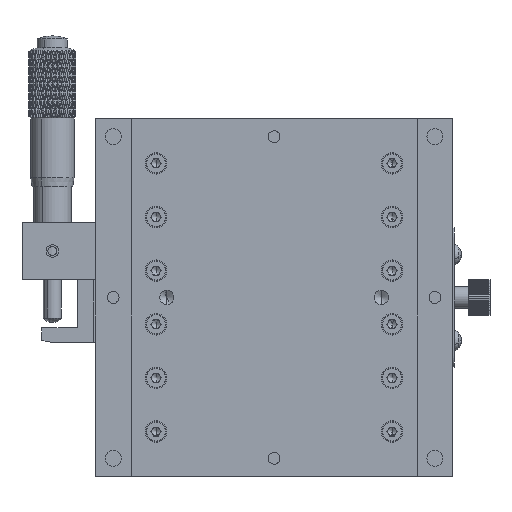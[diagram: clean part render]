
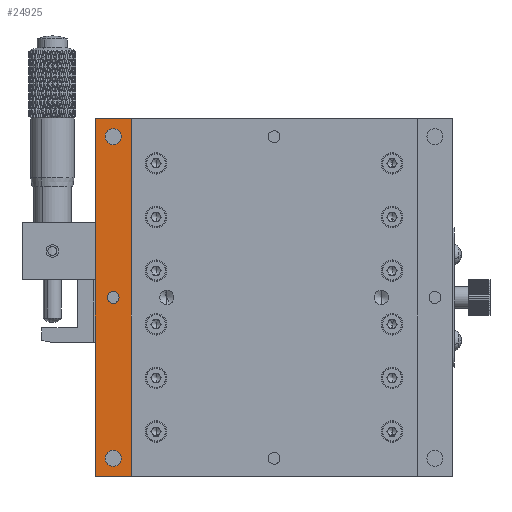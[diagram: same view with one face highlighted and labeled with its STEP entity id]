
A CAD part, front view. The second image highlights one B-rep face of the part: STEP entity #24925.
In plain terms, the highlighted planar face has unit normal (0, -1, 0).
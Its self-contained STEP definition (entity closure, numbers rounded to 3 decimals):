
#30 = ORIENTED_EDGE ( 'NONE', *, *, #30024, .T. ) ;
#113 = AXIS2_PLACEMENT_3D ( 'NONE', #5647, #52542, #12407 ) ;
#714 = CARTESIAN_POINT ( 'NONE',  ( -50., 0., -50. ) ) ;
#1041 = EDGE_CURVE ( 'NONE', #62448, #77093, #59112, .T. ) ;
#2979 = ORIENTED_EDGE ( 'NONE', *, *, #67895, .T. ) ;
#3623 = FACE_BOUND ( 'NONE', #60285, .T. ) ;
#5367 = DIRECTION ( 'NONE',  ( 0., 0., 1. ) ) ;
#5647 = CARTESIAN_POINT ( 'NONE',  ( -45., 0., 0. ) ) ;
#6212 = CARTESIAN_POINT ( 'NONE',  ( -50., 0., 50. ) ) ;
#6318 = CARTESIAN_POINT ( 'NONE',  ( -45., 0., 45. ) ) ;
#7304 = DIRECTION ( 'NONE',  ( 0., 0., -1. ) ) ;
#7659 = VECTOR ( 'NONE', #40842, 1000. ) ;
#8736 = AXIS2_PLACEMENT_3D ( 'NONE', #79269, #39116, #85956 ) ;
#10585 = CARTESIAN_POINT ( 'NONE',  ( -40., 0., 50. ) ) ;
#11142 = EDGE_LOOP ( 'NONE', ( #85021, #28836 ) ) ;
#12348 = EDGE_LOOP ( 'NONE', ( #45420, #20466 ) ) ;
#12407 = DIRECTION ( 'NONE',  ( 0., 0., 1. ) ) ;
#13078 = DIRECTION ( 'NONE',  ( 0., 0., 1. ) ) ;
#17884 = CARTESIAN_POINT ( 'NONE',  ( -50., 0., 50. ) ) ;
#18077 = DIRECTION ( 'NONE',  ( 0., 1., 0. ) ) ;
#18647 = CARTESIAN_POINT ( 'NONE',  ( -40., 0., -50. ) ) ;
#19258 = DIRECTION ( 'NONE',  ( 0., 1., 0. ) ) ;
#19388 = CIRCLE ( 'NONE', #31414, 2.25 ) ;
#19712 = DIRECTION ( 'NONE',  ( 0., 0., -1. ) ) ;
#20466 = ORIENTED_EDGE ( 'NONE', *, *, #1041, .T. ) ;
#20703 = CARTESIAN_POINT ( 'NONE',  ( -50., 0., 50. ) ) ;
#22109 = VERTEX_POINT ( 'NONE', #53665 ) ;
#24925 = ADVANCED_FACE ( 'NONE', ( #3623, #40216, #72852, #39308 ), #67509, .F. ) ;
#25148 = LINE ( 'NONE', #6212, #76462 ) ;
#25444 = LINE ( 'NONE', #714, #7659 ) ;
#25760 = ORIENTED_EDGE ( 'NONE', *, *, #75611, .T. ) ;
#26981 = VERTEX_POINT ( 'NONE', #28097 ) ;
#27223 = CARTESIAN_POINT ( 'NONE',  ( -40., 0., 50. ) ) ;
#27419 = DIRECTION ( 'NONE',  ( 0., 1., 0. ) ) ;
#28097 = CARTESIAN_POINT ( 'NONE',  ( -45., 0., -42.75 ) ) ;
#28836 = ORIENTED_EDGE ( 'NONE', *, *, #58737, .T. ) ;
#30024 = EDGE_CURVE ( 'NONE', #75102, #67876, #25148, .T. ) ;
#30215 = CIRCLE ( 'NONE', #8736, 1.65 ) ;
#31414 = AXIS2_PLACEMENT_3D ( 'NONE', #85626, #45529, #5367 ) ;
#34284 = VECTOR ( 'NONE', #83064, 1000. ) ;
#34504 = CARTESIAN_POINT ( 'NONE',  ( -45., 0., -47.25 ) ) ;
#35526 = CIRCLE ( 'NONE', #113, 1.65 ) ;
#36205 = CARTESIAN_POINT ( 'NONE',  ( -50., 0., 50. ) ) ;
#39116 = DIRECTION ( 'NONE',  ( 0., 1., 0. ) ) ;
#39308 = FACE_OUTER_BOUND ( 'NONE', #50264, .T. ) ;
#40216 = FACE_BOUND ( 'NONE', #11142, .T. ) ;
#40842 = DIRECTION ( 'NONE',  ( 1., 0., 0. ) ) ;
#41053 = VECTOR ( 'NONE', #7304, 1000. ) ;
#42613 = EDGE_CURVE ( 'NONE', #26981, #72032, #54593, .T. ) ;
#42693 = AXIS2_PLACEMENT_3D ( 'NONE', #20703, #27419, #74275 ) ;
#45120 = AXIS2_PLACEMENT_3D ( 'NONE', #58188, #18077, #64875 ) ;
#45420 = ORIENTED_EDGE ( 'NONE', *, *, #61359, .T. ) ;
#45529 = DIRECTION ( 'NONE',  ( 0., 1., 0. ) ) ;
#46798 = CARTESIAN_POINT ( 'NONE',  ( -45., 0., 1.65 ) ) ;
#47939 = LINE ( 'NONE', #36205, #34284 ) ;
#50264 = EDGE_LOOP ( 'NONE', ( #25760, #50382, #75172, #30 ) ) ;
#50382 = ORIENTED_EDGE ( 'NONE', *, *, #76367, .F. ) ;
#51338 = EDGE_CURVE ( 'NONE', #86330, #22109, #35526, .T. ) ;
#52542 = DIRECTION ( 'NONE',  ( 0., 1., 0. ) ) ;
#53196 = DIRECTION ( 'NONE',  ( 0., 1., 0. ) ) ;
#53665 = CARTESIAN_POINT ( 'NONE',  ( -45., 0., -1.65 ) ) ;
#54593 = CIRCLE ( 'NONE', #56608, 2.25 ) ;
#56608 = AXIS2_PLACEMENT_3D ( 'NONE', #59338, #19258, #66047 ) ;
#57032 = CARTESIAN_POINT ( 'NONE',  ( -45., 0., 47.25 ) ) ;
#57880 = CARTESIAN_POINT ( 'NONE',  ( -50., 0., -50. ) ) ;
#58188 = CARTESIAN_POINT ( 'NONE',  ( -45., 0., 45. ) ) ;
#58737 = EDGE_CURVE ( 'NONE', #72032, #26981, #19388, .T. ) ;
#59112 = CIRCLE ( 'NONE', #64599, 2.25 ) ;
#59338 = CARTESIAN_POINT ( 'NONE',  ( -45., 0., -45. ) ) ;
#59746 = CARTESIAN_POINT ( 'NONE',  ( -45., 0., 42.75 ) ) ;
#60285 = EDGE_LOOP ( 'NONE', ( #86774, #2979 ) ) ;
#61359 = EDGE_CURVE ( 'NONE', #77093, #62448, #67234, .T. ) ;
#62448 = VERTEX_POINT ( 'NONE', #59746 ) ;
#64599 = AXIS2_PLACEMENT_3D ( 'NONE', #6318, #53196, #13078 ) ;
#64875 = DIRECTION ( 'NONE',  ( 0., 0., 1. ) ) ;
#66047 = DIRECTION ( 'NONE',  ( 0., 0., 1. ) ) ;
#66941 = VERTEX_POINT ( 'NONE', #18647 ) ;
#67234 = CIRCLE ( 'NONE', #45120, 2.25 ) ;
#67509 = PLANE ( 'NONE',  #42693 ) ;
#67876 = VERTEX_POINT ( 'NONE', #57880 ) ;
#67895 = EDGE_CURVE ( 'NONE', #22109, #86330, #30215, .T. ) ;
#69272 = EDGE_CURVE ( 'NONE', #75102, #76074, #47939, .T. ) ;
#72032 = VERTEX_POINT ( 'NONE', #34504 ) ;
#72852 = FACE_BOUND ( 'NONE', #12348, .T. ) ;
#74275 = DIRECTION ( 'NONE',  ( -1., 0., 0. ) ) ;
#75102 = VERTEX_POINT ( 'NONE', #17884 ) ;
#75172 = ORIENTED_EDGE ( 'NONE', *, *, #69272, .F. ) ;
#75611 = EDGE_CURVE ( 'NONE', #67876, #66941, #25444, .T. ) ;
#76074 = VERTEX_POINT ( 'NONE', #10585 ) ;
#76367 = EDGE_CURVE ( 'NONE', #76074, #66941, #76700, .T. ) ;
#76462 = VECTOR ( 'NONE', #19712, 1000. ) ;
#76700 = LINE ( 'NONE', #27223, #41053 ) ;
#77093 = VERTEX_POINT ( 'NONE', #57032 ) ;
#79269 = CARTESIAN_POINT ( 'NONE',  ( -45., 0., 0. ) ) ;
#83064 = DIRECTION ( 'NONE',  ( 1., 0., 0. ) ) ;
#85021 = ORIENTED_EDGE ( 'NONE', *, *, #42613, .T. ) ;
#85626 = CARTESIAN_POINT ( 'NONE',  ( -45., 0., -45. ) ) ;
#85956 = DIRECTION ( 'NONE',  ( 0., 0., 1. ) ) ;
#86330 = VERTEX_POINT ( 'NONE', #46798 ) ;
#86774 = ORIENTED_EDGE ( 'NONE', *, *, #51338, .T. ) ;
